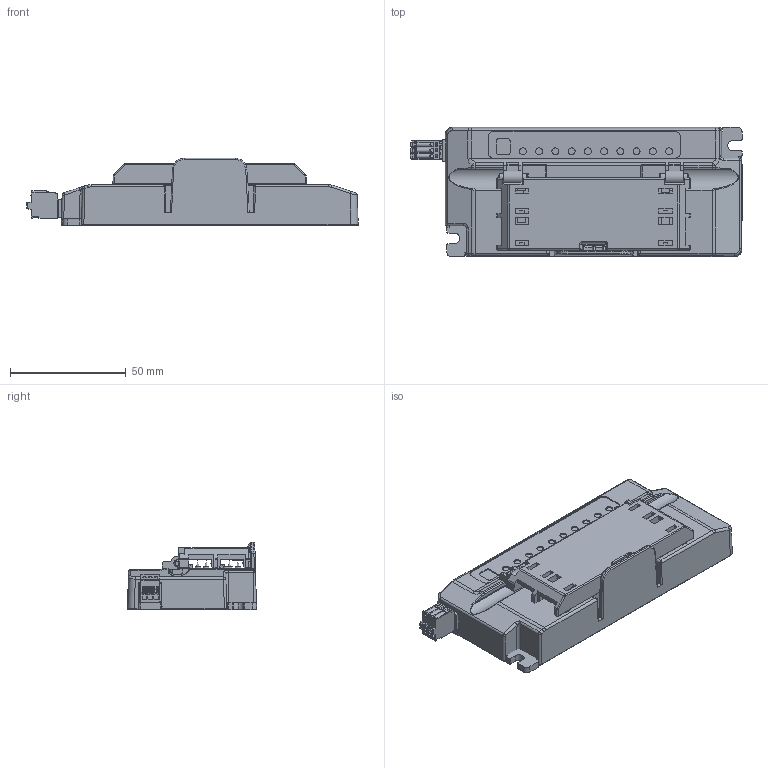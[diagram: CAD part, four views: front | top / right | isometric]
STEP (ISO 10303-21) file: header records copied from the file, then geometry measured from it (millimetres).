
FILE_DESCRIPTION(/* description */ (''),/* implementation_level */ '2;1');
FILE_NAME(/* name */ '老外驱-1.5.stp',/* time_stamp */ '2026-03-31T10:04:35+08:00',/* author */ (''),/* organization */ (''),/* preprocessor_version */ 'ST-DEVELOPER v19.4',/* originating_system */ 'SIEMENS PLM Software NX2212.7001',/* authorisation */ '');
FILE_SCHEMA (('AUTOMOTIVE_DESIGN { 1 0 10303 214 3 1 1 1 }'));
Products named in the file (1): 老外驱-4.2_stp_fang5AC847A4qney
Bounding box: 143.12 x 55.78 x 29 mm (x, y, z)
Volume: 135056.2 mm3; surface area: 51717.3 mm2
Topology: 10 solids, 10 shells, 1983 faces, 5373 edges, 3485 vertices
Faces by surface type: plane 1355, cylinder 466, cone 47, extrusion 32, sphere 32, torus 26, bspline 25
Full cylindrical faces by diameter (mm): 1 x4, 1.25 x4, 1.7 x4, 2.4 x8, 2.95 x2, 3 x10, 3.2 x4
Entity records: 64314 total; most frequent: CARTESIAN_POINT 13614, ORIENTED_EDGE 10480, DIRECTION 9749, EDGE_CURVE 5240, VECTOR 4055, LINE 4023, VERTEX_POINT 3453, AXIS2_PLACEMENT_3D 2847
